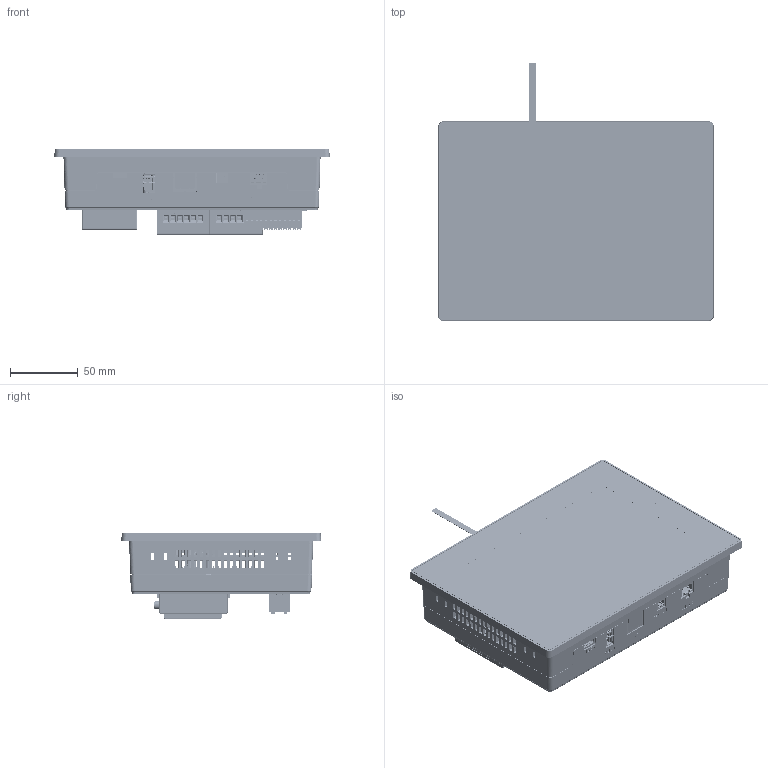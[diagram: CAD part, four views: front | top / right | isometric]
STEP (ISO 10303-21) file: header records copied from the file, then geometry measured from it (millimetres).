
FILE_DESCRIPTION((''),'2;1');
FILE_NAME('00-AIO-7INCH-HMI-ASM_ASM','2023-06-15T',('samkoon'),(''),'PRO/ENGINEER BY PARAMETRIC TECHNOLOGY CORPORATION, 2015240','PRO/ENGINEER BY PARAMETRIC TECHNOLOGY CORPORATION, 2015240','');
FILE_SCHEMA(('AUTOMOTIVE_DESIGN { 1 0 10303 214 1 1 1 1 }'));
Products named in the file (77): FRONT-CAB-AIO-070-M2; BACK-CAB-AIO-070-M2; BRACKET-070B-WP; LCD-ZS-PS-7IN; TP-WETOUCH-070-18MM; BRACKET-070B-WP-ASM_ASM; PCBA-HMI-070-AIO-M2; TERM-2PIN-TL_1; 350-2PIN-NONESCREW_2; USB-A-W_5; TYPE-C-WOSHI_4; RJ45; LED-SMD; USB-A; PCBA-HMI-070-AIO-M2-ASM_ASM; PCBA-PLC-070-AIO-M2; CMP15-TML-350-B1_8; CMP15-TML-350-B2_3; CMP15-TML-350-B4_4; CMP15-TML-350-B3_6; CMP15-TML-350-2X12PIN-B-ASM_ASM_ASM; SWITCH-1PIN; HUADONGKAIGUAN-01; CMP15-TML-350-T1; CMP15-TML-350-T2; CMP15-TML-350-T4; CMP15-TML-350-T3; CMP15-TML-350-T-SCREW; CMP15-TML-350-2X12PIN-T-ASM_ASM; CMP15-TML-350-B1; CMP15-TML-350-B2; CMP15-TML-350-B3; CMP15-TML-350-2X8PIN-B-ASM_ASM; CMP15-TML-350-2X12PIN-ASM_ASM; PCBA-PLC-070-AIO-M2-ASM_ASM; PCBA-070-AIO-M2-ASM_ASM; COVER-PLC-DECO-EXT-0829_1; TOP-COVER-PLC-EXT-ESD-0829_2; BOTTOM-COVER-PLC-EXT-ESD-0829_1; PCB-PLC-EXT-EMD-0829_1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
Assembly tree (106 placements, depth 7):
  00-AIO-7INCH-HMI-ASM_ASM
    FRONT-CAB-AIO-070-M2
    BACK-CAB-AIO-070-M2
    BRACKET-070B-WP-ASM_ASM
      BRACKET-070B-WP
      LCD-ZS-PS-7IN
      TP-WETOUCH-070-18MM
    PCBA-070-AIO-M2-ASM_ASM
      PCBA-HMI-070-AIO-M2-ASM_ASM
        PCBA-HMI-070-AIO-M2
        TERM-2PIN-TL_1
        350-2PIN-NONESCREW_2
        USB-A-W_5
        TYPE-C-WOSHI_4
        RJ45
        LED-SMD  x2
        USB-A
      PCBA-PLC-070-AIO-M2-ASM_ASM
        PCBA-PLC-070-AIO-M2
        CMP15-TML-350-2X12PIN-B-ASM_ASM_ASM
          CMP15-TML-350-B1_8
          CMP15-TML-350-B2_3  x5
          CMP15-TML-350-B4_4
          CMP15-TML-350-B3_6
        SWITCH-1PIN
        HUADONGKAIGUAN-01
        CMP15-TML-350-2X12PIN-ASM_ASM
          CMP15-TML-350-2X12PIN-T-ASM_ASM
            CMP15-TML-350-T1
            CMP15-TML-350-T2  x3
            CMP15-TML-350-T4
            CMP15-TML-350-T3
            CMP15-TML-350-T-SCREW  x2
          CMP15-TML-350-2X8PIN-B-ASM_ASM
            CMP15-TML-350-B1
            CMP15-TML-350-B2  x2
            CMP15-TML-350-B3
    PLC-56IO-ASM-0829_ASM_5_ASM
      COVER-PLC-DECO-EXT-0829_1
      PLC-EXT-EMD-ASM-0829_ASM_2_ASM  x2
        TOP-COVER-PLC-EXT-ESD-0829_2
        BOTTOM-COVER-PLC-EXT-ESD-0829_1
        PCBA-PLC-EXT-EMD-ASM-0829_ASM_1_ASM
          PCB-PLC-EXT-EMD-0829_1
          LED-SMD-0829_1  x8
          PIN-EXT-EMD-ASM-0829_ASM_1_ASM
            PIN-EMD-FEMALE-0829_1
            PIN-EMD-MALE-EMD-0829_1
          EMD-105-PIN06-508-ASM-0829_ASM__ASM  x2
            EMD-105-PIN03-508-ASM-0829_ASM__ASM
              221900002-0829_1
              660300000-0829_1  x3
              550200000-0829_1  x3
        LOCK-TOP-PLC-EXT-EMD-0829_1
        LOCK-BOTTOM-PLC-EXT-EMD-0829_1
        PC-COVER-PLC-EXT-EMD-0829_1
    4G-WIFI-MOD-ASM-0825_ASM_4_ASM
      TOP-COVER-4G-WIFI-MOD-0825_1
      BOT-COVER-4G-WIFI-MOD-0825_1
      PCBA-4G-WIFI-MOD-ASM-0825_ASM_2_ASM
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Bounding box: 203.5 x 190.49 x 63.7 mm (x, y, z)
Volume: 725879.5 mm3; surface area: 890929.6 mm2
Topology: 153 solids, 153 shells, 30050 faces, 83845 edges, 54581 vertices
Faces by surface type: plane 23124, cylinder 3719, extrusion 1775, cone 692, bspline 532, torus 180, sphere 28
Entity records: 648547 total; most frequent: CARTESIAN_POINT 143789, ORIENTED_EDGE 96528, DIRECTION 84059, EDGE_CURVE 48264, VECTOR 40321, LINE 39954, VERTEX_POINT 31422, AXIS2_PLACEMENT_3D 21869
